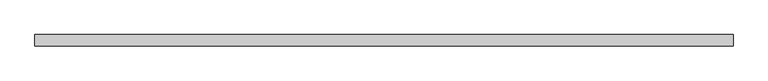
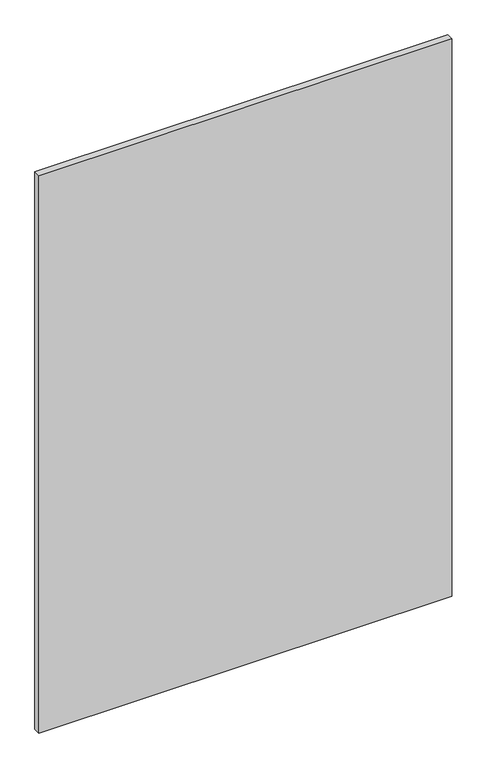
"""IFC4 building model written with IfcOpenShell, lengths in millimetres: plate geometry, 系统嵌板 : 玻璃."""

from ifc_helpers import new_model, si_unit, origin, origin_with_axes, place, context, project, spatial, polyline, outline, extrude, source, transform, mapped, element, save


def plate_8b333cfc(model_context):
    return source(origin(), model_context, "Body", "SweptSolid", [
        extrude(outline(polyline([(760.0000002, -12.5), (-760.0000002, -12.5), (-760.0000002, 12.5), (760.0000002, 12.5), (760.0000002, -12.5)])), origin_with_axes(), (0.0, 0.0, 1.0), 2170.0),
    ])


if __name__ == "__main__":
    model = new_model("IFC4")
    model_context = context("Model", 3, world=origin())
    ifc_project = project(units=[si_unit("LENGTHUNIT", "METRE", prefix="MILLI")], contexts=[model_context])
    site = spatial("IfcSite", under=ifc_project)
    building = spatial("IfcBuilding", under=site)
    placement = place(None, origin())
    plate_shape = plate_8b333cfc(model_context)
    element("IfcPlate", 1, ObjectType="系统嵌板 : 玻璃", at=placement, inside=building, context=model_context, shape_type="MappedRepresentation", body=[
        mapped(plate_shape, transform((0.0, 0.0, 0.0), x_axis=(1.0, 0.0, 0.0), y_axis=(0.0, 1.0, 0.0), z_axis=(0.0, 0.0, 1.0))),
    ])
    save(model, "model.ifc")
